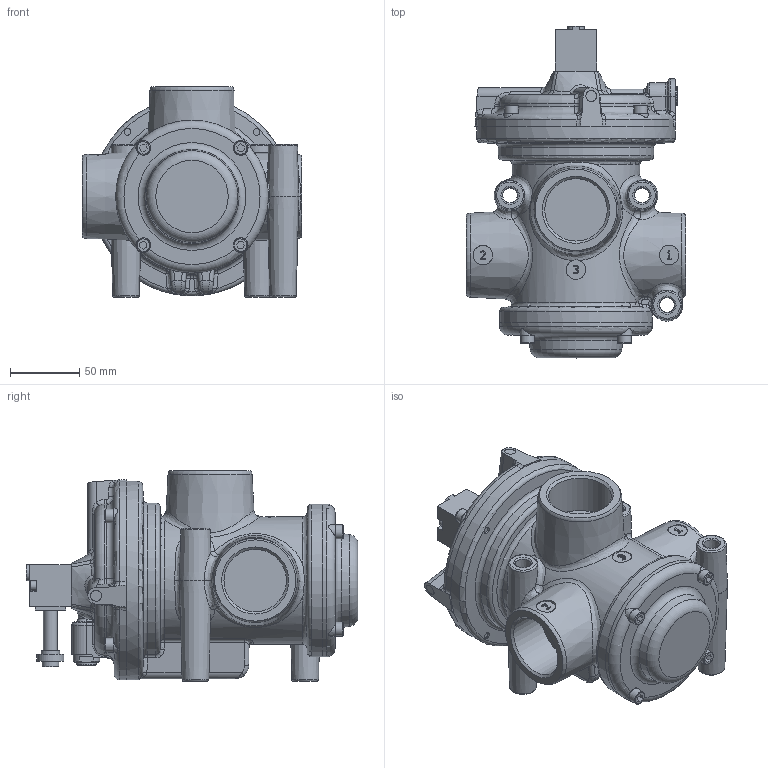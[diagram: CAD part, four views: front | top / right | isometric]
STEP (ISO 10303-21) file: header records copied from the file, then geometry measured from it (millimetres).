
FILE_DESCRIPTION(/* description */ ('EV.OTT. x VUOTO 3/2 NC SOL-MOLLA AUTOALIM. CON M3R'),/* implementation_level */ '2;1');
FILE_NAME(/* name */ 'C:\PNX_VAULTFOLDER\Area Tecnica\Disegni\VARIE-3D\Componenti\1900 (vuoto)\N776-V_32_0_1AC_M3R.stp',/* time_stamp */ '2018-06-18T15:51:56+02:00',/* author */ ('maniean1'),/* organization */ ('Pneumax S.p.A.'),/* preprocessor_version */ 'ST-DEVELOPER v16.5',/* originating_system */ 'Autodesk Inventor 2017',/* authorisation */ '');
FILE_SCHEMA (('AUTOMOTIVE_DESIGN { 1 0 10303 214 3 1 1 }'));
Length unit declared in the file: millimetre
Products named in the file (1): N776/V.32.0.1AC.M3R
Bounding box: 158 x 239 x 151.5 mm (x, y, z)
Volume: 1927290.7 mm3; surface area: 172903.6 mm2
Topology: 1 solids, 20 shells, 752 faces, 1784 edges, 1107 vertices
Faces by surface type: plane 269, bspline 193, cylinder 132, cone 84, torus 64, sphere 10
Full cylindrical faces by diameter (mm): 4 x2, 4.917 x8, 6 x9, 7 x3, 7.3 x1, 8 x6, 10 x10, 12 x1, 13.3 x1, 14 x5, 18 x1, 19 x1, 19.5 x1, 45 x3, 110 x2, 143 x1
Entity records: 29350 total; most frequent: CARTESIAN_POINT 13147, ORIENTED_EDGE 3144, DIRECTION 2898, EDGE_CURVE 1572, AXIS2_PLACEMENT_3D 1182, VERTEX_POINT 1040, EDGE_LOOP 958, FACE_OUTER_BOUND 752
